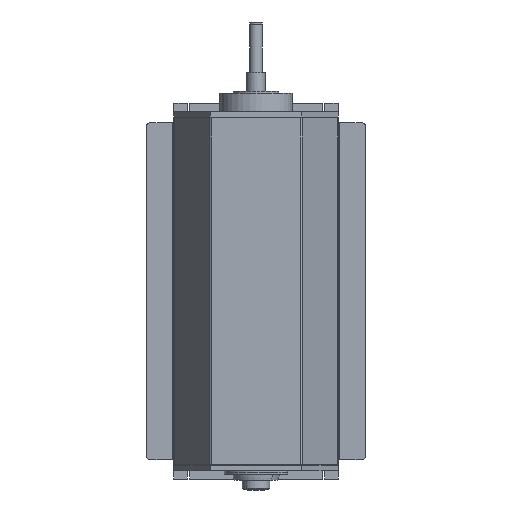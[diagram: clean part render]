
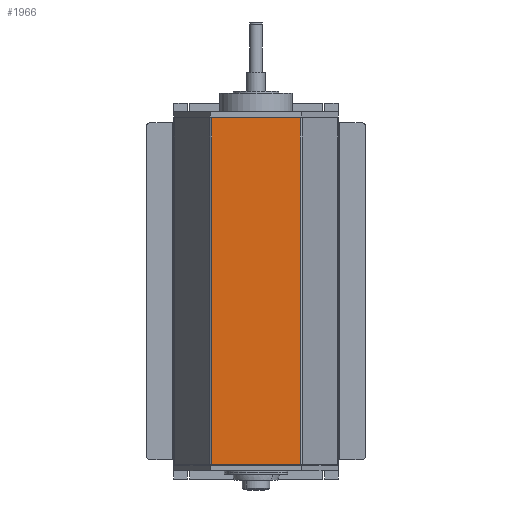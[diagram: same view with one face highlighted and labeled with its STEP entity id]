
A CAD part, front view. The second image highlights one B-rep face of the part: STEP entity #1966.
In plain terms, the highlighted planar face has unit normal (0, -1, 0).
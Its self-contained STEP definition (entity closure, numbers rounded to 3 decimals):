
#92 = DIRECTION ( 'NONE',  ( 0., 0., -1. ) ) ;
#702 = EDGE_LOOP ( 'NONE', ( #1188, #729, #15411, #2160 ) ) ;
#729 = ORIENTED_EDGE ( 'NONE', *, *, #730, .F. ) ;
#730 = EDGE_CURVE ( 'NONE', #4276, #9665, #18788, .T. ) ;
#1130 = DIRECTION ( 'NONE',  ( 1., 0., 0. ) ) ;
#1188 = ORIENTED_EDGE ( 'NONE', *, *, #9406, .T. ) ;
#1248 = DIRECTION ( 'NONE',  ( 0., 0., -1. ) ) ;
#1966 = ADVANCED_FACE ( 'NONE', ( #3267 ), #17486, .F. ) ;
#2082 = EDGE_CURVE ( 'NONE', #18971, #4276, #7243, .T. ) ;
#2160 = ORIENTED_EDGE ( 'NONE', *, *, #11046, .T. ) ;
#3267 = FACE_OUTER_BOUND ( 'NONE', #702, .T. ) ;
#3328 = CARTESIAN_POINT ( 'NONE',  ( 48.268, 0., -189.5 ) ) ;
#3699 = DIRECTION ( 'NONE',  ( 1., 0., 0. ) ) ;
#4229 = CARTESIAN_POINT ( 'NONE',  ( -48.268, 0., 189.5 ) ) ;
#4276 = VERTEX_POINT ( 'NONE', #14088 ) ;
#4608 = CARTESIAN_POINT ( 'NONE',  ( -48.268, 0., -189.5 ) ) ;
#4689 = CARTESIAN_POINT ( 'NONE',  ( 48.268, 0., 189.5 ) ) ;
#4788 = CARTESIAN_POINT ( 'NONE',  ( -48.268, 0., 189.5 ) ) ;
#4811 = DIRECTION ( 'NONE',  ( 0., 1., 0. ) ) ;
#6143 = LINE ( 'NONE', #4229, #18355 ) ;
#6752 = CARTESIAN_POINT ( 'NONE',  ( -50., 0., 189.5 ) ) ;
#7243 = LINE ( 'NONE', #6752, #11981 ) ;
#9406 = EDGE_CURVE ( 'NONE', #20404, #9665, #19166, .T. ) ;
#9665 = VERTEX_POINT ( 'NONE', #3328 ) ;
#9693 = VECTOR ( 'NONE', #1130, 1000. ) ;
#10229 = AXIS2_PLACEMENT_3D ( 'NONE', #14342, #4811, #19152 ) ;
#11046 = EDGE_CURVE ( 'NONE', #18971, #20404, #6143, .T. ) ;
#11981 = VECTOR ( 'NONE', #3699, 1000. ) ;
#14088 = CARTESIAN_POINT ( 'NONE',  ( 48.268, 0., 189.5 ) ) ;
#14342 = CARTESIAN_POINT ( 'NONE',  ( -50., 0., 189.5 ) ) ;
#15411 = ORIENTED_EDGE ( 'NONE', *, *, #2082, .F. ) ;
#17063 = CARTESIAN_POINT ( 'NONE',  ( -50., 0., -189.5 ) ) ;
#17486 = PLANE ( 'NONE',  #10229 ) ;
#18355 = VECTOR ( 'NONE', #1248, 1000. ) ;
#18788 = LINE ( 'NONE', #4689, #19769 ) ;
#18971 = VERTEX_POINT ( 'NONE', #4788 ) ;
#19152 = DIRECTION ( 'NONE',  ( -1., 0., 0. ) ) ;
#19166 = LINE ( 'NONE', #17063, #9693 ) ;
#19769 = VECTOR ( 'NONE', #92, 1000. ) ;
#20404 = VERTEX_POINT ( 'NONE', #4608 ) ;
